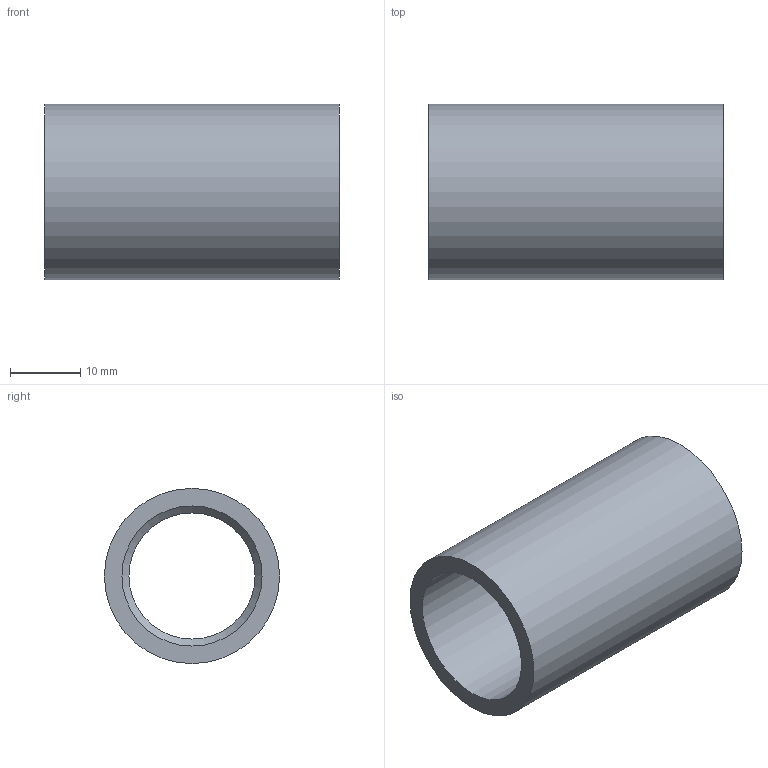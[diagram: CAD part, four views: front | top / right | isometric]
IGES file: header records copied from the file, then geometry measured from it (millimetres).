
Global section: file name: 050200025020.ipt; native system: Autodesk Inventor 2015; preprocessor: unknown; author: KIM; date: 20171207.164124; units: millimetre
Bounding box: 42 x 25 x 25 mm (x, y, z)
Volume: 7989.6 mm3; surface area: 6315.8 mm2
Topology: 1 solids, 1 shells, 8 faces, 19 edges, 14 vertices
Faces by surface type: revolution 4, plane 3, cylinder 1
Full cylindrical faces by diameter (mm): 25 x1
